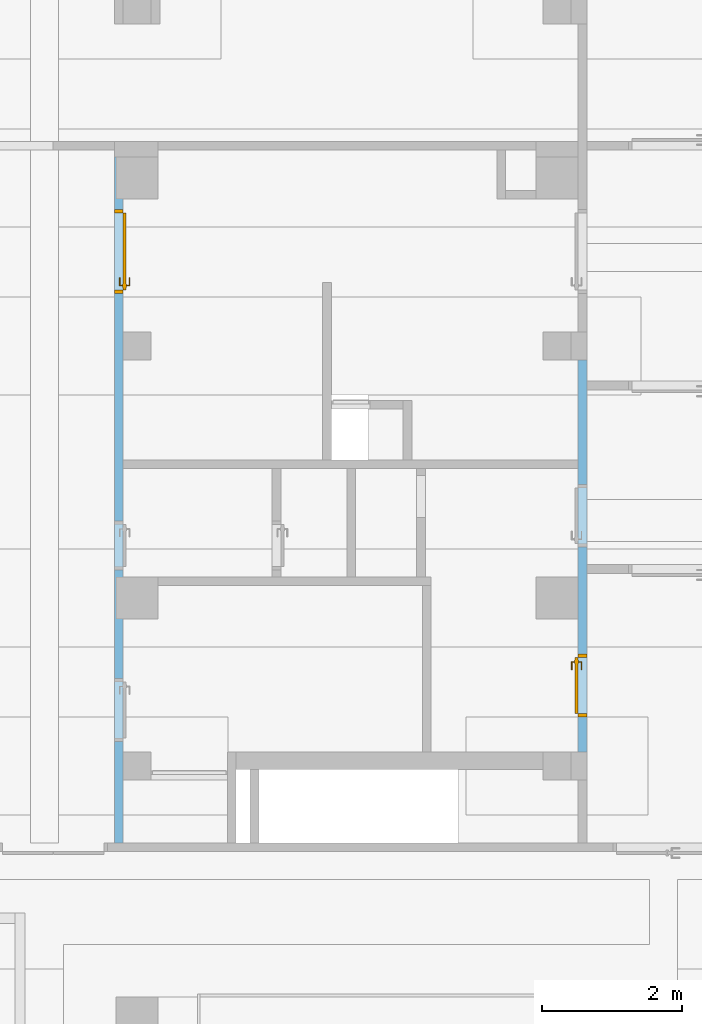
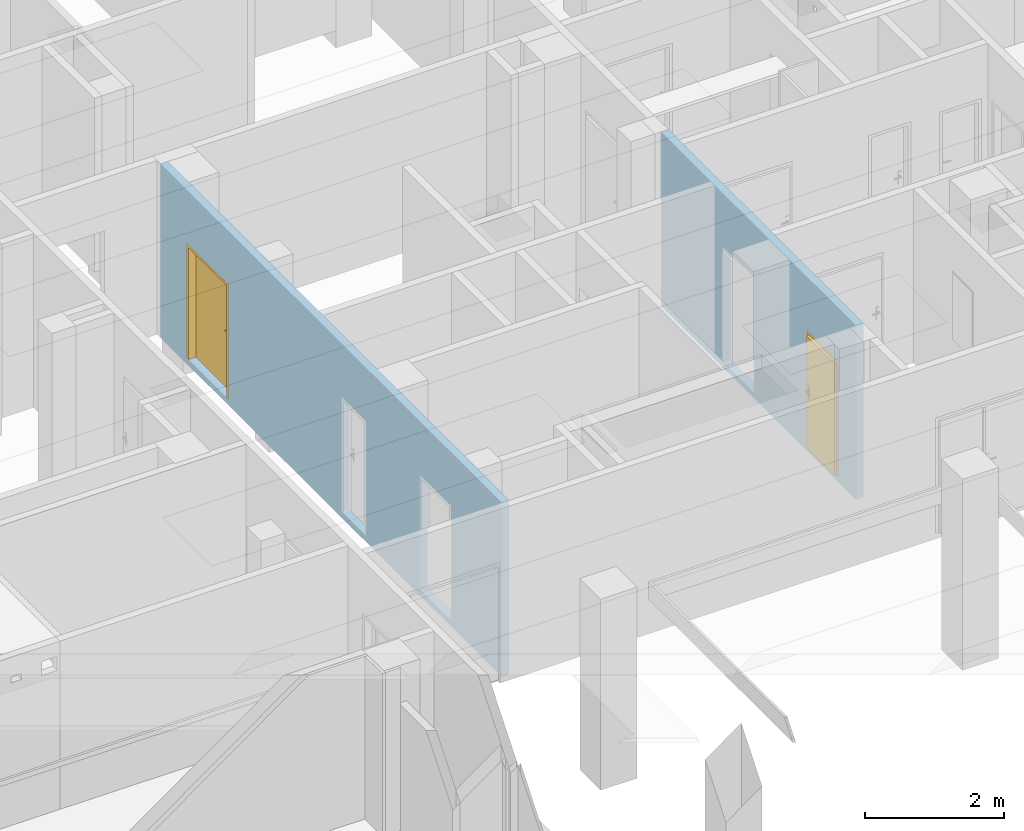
# One storey, part 69 of 84: 2 doors, 5 openings, plus 2 elements that do not belong to this part.
"""IFC4 building model written with IfcOpenShell, lengths in metres."""

from ifc_helpers import new_model, entity, si_unit, converted_unit, derived_unit, frame, frame_2d, origin, origin_with_axes, place, context, subcontext, project, spatial, polyline, rectangle, outline, extrude, closed_shell, open_shell, surface_model, source, transform, mapped, material, layer, layer_set, layer_usage, type_object, element, fill, save


model = new_model("IFC4")

# Units and contexts
model_context = context("Model", 3, precision=1e-05, world=origin())
body_context = subcontext(model_context, "Body", "Model", "MODEL_VIEW")
ifc_project = project(units=[si_unit("LENGTHUNIT", "METRE"), si_unit("AREAUNIT", "SQUARE_METRE"), si_unit("VOLUMEUNIT", "CUBIC_METRE"), si_unit("MASSUNIT", "GRAM", prefix="KILO"), converted_unit("PLANEANGLEUNIT", "DEGREE", entity("IfcPlaneAngleMeasure", 0.0174532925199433), si_unit("PLANEANGLEUNIT", "RADIAN"), dimensions=[0, 0, 0, 0, 0, 0, 0]), derived_unit("THERMALTRANSMITTANCEUNIT", [(si_unit("POWERUNIT", "WATT"), 1), (si_unit("THERMODYNAMICTEMPERATUREUNIT", "KELVIN"), -1), (si_unit("LENGTHUNIT", "METRE"), -2)]), derived_unit("VOLUMETRICFLOWRATEUNIT", [(si_unit("LENGTHUNIT", "METRE"), 3), (converted_unit("TIMEUNIT", "hour", entity("IfcTimeMeasure", 3600.0), si_unit("TIMEUNIT", "SECOND"), dimensions=[0, 0, 1, 0, 0, 0, 0]), -1), (si_unit("LENGTHUNIT", "METRE"), -1)])], contexts=[model_context])

# Site, building, storey
site_placement = place(None, origin())
site = spatial("IfcSite", under=ifc_project, at=site_placement, Name="3. ASŘ", CompositionType="ELEMENT")
building_placement = place(site_placement, origin())
building = spatial("IfcBuilding", under=site, at=building_placement, Name="Pavilon C", CompositionType="ELEMENT")
storey_placement = place(building_placement, frame((0.0, 0.0, -3.3)))
storey = spatial("IfcBuildingStorey", under=building, at=storey_placement, Name="Půdorys 1.PP", CompositionType="ELEMENT", Elevation=-3.3)

# Wall, openings, door
ifc_material_1 = material(Name="ZDIVO Z CDm")
ifc_layer_1 = layer(ifc_material_1, 0.125)
ifc_layer_set_1 = layer_set([ifc_layer_1])
ifc_layer_usage_1 = layer_usage(ifc_layer_set_1, "AXIS2", "POSITIVE", 0.0)
wall_1_placement = place(storey_placement, frame((34.15, 9.69999999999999, -0.1), z_axis=(0.0, 0.0, 1.0), x_axis=(0.0, 1.0, 0.0)))
wall_1 = element("IfcWall", 1, at=wall_1_placement, inside=storey, material=ifc_layer_usage_1, Name="ZDIVO Z CDm", context=body_context, shape_type="SweptSolid", body=[
    extrude(rectangle(XDim=9.8, YDim=0.125, at=frame_2d((4.9, 0.0625), x_axis=(1.0, 0.0))), origin_with_axes(), (0.0, 0.0, 1.0), 3.05),
])
opening_1_placement = place(wall_1_placement, frame((3.9, 0.0, 0.1), z_axis=(0.0, 1.0, 0.0), x_axis=(0.0, 0.0, 1.0)))
element("IfcOpeningElement", 2, at=opening_1_placement, cuts=wall_1, Name="Dveřní otvor", ObjectType="Opening", context=body_context, shape_type="SweptSolid", body=[
    extrude(outline(polyline([(0.0, 0.7), (2.02, 0.7), (2.02, 0.0), (0.0, 0.0), (0.0, 0.7)])), origin_with_axes(), (0.0, 0.0, 1.0), 0.125),
])
opening_2_placement = place(wall_1_placement, frame((9.05000000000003, 0.125, 0.1), z_axis=(0.0, -1.0, 0.0), x_axis=(0.0, 0.0, 1.0)))
opening_2 = element("IfcOpeningElement", 3, at=opening_2_placement, cuts=wall_1, Name="Dveřní otvor", ObjectType="Opening", context=body_context, shape_type="SweptSolid", body=[
    extrude(outline(polyline([(0.0, 1.2), (2.02, 1.2), (2.02, 0.0), (0.0, 0.0), (0.0, 1.2)])), origin_with_axes(), (0.0, 0.0, 1.0), 0.125),
])
opening_3_placement = place(wall_1_placement, frame((2.35, 0.125, 0.1), z_axis=(0.0, -1.0, 0.0), x_axis=(0.0, 0.0, 1.0)))
element("IfcOpeningElement", 4, at=opening_3_placement, cuts=wall_1, Name="Dveřní otvor", ObjectType="Opening", context=body_context, shape_type="SweptSolid", body=[
    extrude(outline(polyline([(0.0, 0.9), (2.02, 0.9), (2.02, 0.0), (0.0, 0.0), (0.0, 0.9)])), origin_with_axes(), (0.0, 0.0, 1.0), 0.125),
])
door_type_1 = type_object("IfcDoorType", Name="D101", OperationType="NOTDEFINED", ParameterTakesPrecedence=False, PredefinedType="DOOR")
shared_shape_1 = source(origin_with_axes(), body_context, "Body", "SurfaceModel", [
    surface_model("IfcShellBasedSurfaceModel", [(0.0, 0.125, 2.02), (0.0, 0.125, -7.65404249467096e-18), (0.05, 0.125, -7.65404249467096e-18), (0.05, 0.125, 2.02), (0.0, 0.0, 7.65404249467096e-18), (0.0, 2.41584530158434e-16, 2.02), (0.05, 2.41584530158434e-16, 2.02), (0.05, 0.0, 7.65404249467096e-18)], [closed_shell([[[0, 1, 2, 3]], [[4, 5, 6, 7]], [[1, 0, 5, 4]], [[2, 1, 4, 7]], [[3, 2, 7, 6]], [[0, 3, 6, 5]]], orient=[[False], [False], [False], [False], [False], [False]])]),
    surface_model("IfcShellBasedSurfaceModel", [(1.15, 0.125, 2.02), (1.15, 0.125, -7.65404249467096e-18), (1.2, 0.125, -7.65404249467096e-18), (1.2, 0.125, 2.02), (1.15, 0.0, 7.65404249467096e-18), (1.15, 2.41584530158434e-16, 2.02), (1.2, 2.41584530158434e-16, 2.02), (1.2, 0.0, 7.65404249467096e-18)], [closed_shell([[[0, 1, 2, 3]], [[4, 5, 6, 7]], [[1, 0, 5, 4]], [[2, 1, 4, 7]], [[3, 2, 7, 6]], [[0, 3, 6, 5]]], orient=[[False], [False], [False], [False], [False], [False]])]),
    surface_model("IfcShellBasedSurfaceModel", [(0.05, 0.125, 2.02), (0.05, 0.125, 1.97), (1.15, 0.125, 1.97), (1.15, 0.125, 2.02), (0.05, 2.41584530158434e-16, 1.97), (0.05, 2.41584530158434e-16, 2.02), (1.15, 2.41584530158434e-16, 2.02), (1.15, 2.41584530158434e-16, 1.97)], [closed_shell([[[0, 1, 2, 3]], [[4, 5, 6, 7]], [[1, 0, 5, 4]], [[2, 1, 4, 7]], [[3, 2, 7, 6]], [[0, 3, 6, 5]]], orient=[[False], [False], [False], [False], [False], [False]])]),
    surface_model("IfcShellBasedSurfaceModel", [(0.05, 0.165, 1.97), (0.05, 0.165, -1.25526296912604e-17), (1.15, 0.165, -1.25526296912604e-17), (1.15, 0.165, 1.97), (0.05, 0.125, -7.65404249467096e-18), (0.05, 0.125, 1.97), (1.15, 0.125, 1.97), (1.15, 0.125, -7.65404249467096e-18)], [closed_shell([[[0, 1, 2, 3]], [[4, 5, 6, 7]], [[1, 0, 5, 4]], [[2, 1, 4, 7]], [[3, 2, 7, 6]], [[0, 3, 6, 5]]], orient=[[False], [False], [False], [False], [False], [False]])]),
    surface_model("IfcShellBasedSurfaceModel", [(1.06, 0.125, 1.125), (1.06, 0.125, 0.91), (1.11, 0.125, 0.91), (1.11, 0.125, 1.125), (1.06, 0.115, 0.91), (1.06, 0.115, 1.125), (1.11, 0.115, 1.125), (1.11, 0.115, 0.91)], [closed_shell([[[0, 1, 2, 3]], [[4, 5, 6, 7]], [[1, 0, 5, 4]], [[2, 1, 4, 7]], [[3, 2, 7, 6]], [[0, 3, 6, 5]]], orient=[[False], [False], [False], [False], [False], [False]])]),
    surface_model("IfcShellBasedSurfaceModel", [(1.085, 0.115, 1.06), (1.08, 0.115, 1.05866025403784), (1.07633974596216, 0.115, 1.055), (1.075, 0.115, 1.05), (1.07633974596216, 0.115, 1.045), (1.08, 0.115, 1.04133974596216), (1.085, 0.115, 1.04), (1.09, 0.115, 1.04133974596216), (1.09366025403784, 0.115, 1.045), (1.095, 0.115, 1.05), (1.09366025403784, 0.115, 1.055), (1.09, 0.115, 1.05866025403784), (1.09, 0.0700000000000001, 1.05866025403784), (1.085, 0.0750000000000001, 1.06), (1.09366025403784, 0.0663397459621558, 1.055), (1.095, 0.0650000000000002, 1.05), (1.09366025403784, 0.0663397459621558, 1.045), (1.09, 0.0700000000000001, 1.04133974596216), (1.085, 0.0750000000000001, 1.04), (1.08, 0.0800000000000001, 1.04133974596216), (1.07633974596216, 0.0836602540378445, 1.045), (1.075, 0.0850000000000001, 1.05), (1.07633974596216, 0.0836602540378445, 1.055), (1.08, 0.0800000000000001, 1.05866025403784), (0.97, 0.0700000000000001, 1.05866025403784), (0.97, 0.0750000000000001, 1.06), (0.97, 0.0663397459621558, 1.055), (0.97, 0.0650000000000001, 1.05), (0.97, 0.0663397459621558, 1.045), (0.97, 0.0700000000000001, 1.04133974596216), (0.97, 0.0750000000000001, 1.04), (0.97, 0.0800000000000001, 1.04133974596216), (0.97, 0.0836602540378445, 1.045), (0.97, 0.0850000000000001, 1.05), (0.97, 0.0836602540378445, 1.055), (0.97, 0.0800000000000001, 1.05866025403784)], [open_shell([[[0, 1, 2, 3, 4, 5, 6, 7, 8, 9, 10, 11]], [[0, 11, 12, 13]], [[11, 10, 14, 12]], [[10, 9, 15, 14]], [[9, 8, 16, 15]], [[8, 7, 17, 16]], [[7, 6, 18, 17]], [[6, 5, 19, 18]], [[5, 4, 20, 19]], [[4, 3, 21, 20]], [[3, 2, 22, 21]], [[2, 1, 23, 22]], [[1, 0, 13, 23]], [[13, 12, 24, 25]], [[12, 14, 26, 24]], [[14, 15, 27, 26]], [[15, 16, 28, 27]], [[16, 17, 29, 28]], [[17, 18, 30, 29]], [[18, 19, 31, 30]], [[19, 20, 32, 31]], [[20, 21, 33, 32]], [[21, 22, 34, 33]], [[22, 23, 35, 34]], [[23, 13, 25, 35]]], orient=[[False], [False], [False], [False], [False], [False], [False], [False], [False], [False], [False], [False], [False], [False], [False], [False], [False], [False], [False], [False], [False], [False], [False], [False], [False]])]),
    surface_model("IfcShellBasedSurfaceModel", [(1.06, 0.165, 1.125), (1.11, 0.165, 1.125), (1.11, 0.165, 0.91), (1.06, 0.165, 0.91), (1.06, 0.175, 0.91), (1.11, 0.175, 0.91), (1.11, 0.175, 1.125), (1.06, 0.175, 1.125)], [closed_shell([[[0, 1, 2, 3]], [[4, 5, 6, 7]], [[3, 4, 7, 0]], [[2, 5, 4, 3]], [[1, 6, 5, 2]], [[0, 7, 6, 1]]], orient=[[False], [False], [False], [False], [False], [False]])]),
    surface_model("IfcShellBasedSurfaceModel", [(1.085, 0.175, 1.06), (1.09, 0.175, 1.05866025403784), (1.09366025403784, 0.175, 1.055), (1.095, 0.175, 1.05), (1.09366025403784, 0.175, 1.045), (1.09, 0.175, 1.04133974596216), (1.085, 0.175, 1.04), (1.08, 0.175, 1.04133974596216), (1.07633974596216, 0.175, 1.045), (1.075, 0.175, 1.05), (1.07633974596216, 0.175, 1.055), (1.08, 0.175, 1.05866025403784), (1.085, 0.215, 1.06), (1.09, 0.22, 1.05866025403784), (1.09366025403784, 0.223660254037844, 1.055), (1.095, 0.225, 1.05), (1.09366025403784, 0.223660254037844, 1.045), (1.09, 0.22, 1.04133974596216), (1.085, 0.215, 1.04), (1.08, 0.21, 1.04133974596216), (1.07633974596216, 0.206339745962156, 1.045), (1.075, 0.205, 1.05), (1.07633974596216, 0.206339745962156, 1.055), (1.08, 0.21, 1.05866025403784), (0.97, 0.215, 1.06), (0.97, 0.22, 1.05866025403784), (0.97, 0.223660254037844, 1.055), (0.97, 0.225, 1.05), (0.97, 0.223660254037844, 1.045), (0.97, 0.22, 1.04133974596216), (0.97, 0.215, 1.04), (0.97, 0.21, 1.04133974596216), (0.97, 0.206339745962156, 1.045), (0.97, 0.205, 1.05), (0.97, 0.206339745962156, 1.055), (0.97, 0.21, 1.05866025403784)], [open_shell([[[0, 1, 2, 3, 4, 5, 6, 7, 8, 9, 10, 11]], [[0, 12, 13, 1]], [[1, 13, 14, 2]], [[2, 14, 15, 3]], [[3, 15, 16, 4]], [[4, 16, 17, 5]], [[5, 17, 18, 6]], [[6, 18, 19, 7]], [[7, 19, 20, 8]], [[8, 20, 21, 9]], [[9, 21, 22, 10]], [[10, 22, 23, 11]], [[11, 23, 12, 0]], [[12, 24, 25, 13]], [[13, 25, 26, 14]], [[14, 26, 27, 15]], [[15, 27, 28, 16]], [[16, 28, 29, 17]], [[17, 29, 30, 18]], [[18, 30, 31, 19]], [[19, 31, 32, 20]], [[20, 32, 33, 21]], [[21, 33, 34, 22]], [[22, 34, 35, 23]], [[23, 35, 24, 12]]], orient=[[False], [False], [False], [False], [False], [False], [False], [False], [False], [False], [False], [False], [False], [False], [False], [False], [False], [False], [False], [False], [False], [False], [False], [False], [False]])]),
])
door_1_placement = place(opening_2_placement, frame((0.0, 7.27595761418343e-15, -1.45519152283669e-14), z_axis=(1.0, 0.0, 0.0), x_axis=(0.0, 1.0, 1.22464679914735e-16)))
door_1 = element("IfcDoor", 5, at=door_1_placement, inside=storey, type_object=door_type_1, Name="D101", OverallHeight=2.02, OverallWidth=1.2, context=body_context, shape_type="MappedRepresentation", body=[
    mapped(shared_shape_1, transform((0.0, 0.0, 0.0), x_axis=(1.0, 0.0, 0.0), y_axis=(0.0, 1.0, 0.0), z_axis=(0.0, 0.0, 1.0), scale=1.0)),
])
fill(opening_2, door_1)

ifc_material_2 = material(Name="ZDIVO Z CDm")
ifc_layer_2 = layer(ifc_material_2, 0.125)
ifc_layer_set_2 = layer_set([ifc_layer_2])
ifc_layer_usage_2 = layer_usage(ifc_layer_set_2, "AXIS2", "POSITIVE", 0.0)
wall_2_placement = place(storey_placement, frame((40.65, 16.6, -0.1), z_axis=(0.0, 0.0, 1.0), x_axis=(0.0, -1.0, 0.0)))
wall_2 = element("IfcWall", 6, at=wall_2_placement, inside=storey, material=ifc_layer_usage_2, Name="ZDIVO Z CDm", context=body_context, shape_type="SweptSolid", body=[
    extrude(rectangle(XDim=5.6, YDim=0.125, at=frame_2d((2.8, 0.0625), x_axis=(1.0, 0.0))), origin_with_axes(), (0.0, 0.0, 1.0), 3.05),
])
opening_4_placement = place(wall_2_placement, frame((2.675, 0.125, 0.1), z_axis=(0.0, -1.0, 0.0), x_axis=(0.0, 0.0, 1.0)))
element("IfcOpeningElement", 7, at=opening_4_placement, cuts=wall_2, Name="Dveřní otvor", ObjectType="Opening", context=body_context, shape_type="SweptSolid", body=[
    extrude(outline(polyline([(0.0, 0.9), (2.02, 0.9), (2.02, 0.0), (0.0, 0.0), (0.0, 0.9)])), origin_with_axes(), (0.0, 0.0, 1.0), 0.125),
])
opening_5_placement = place(wall_2_placement, frame((5.1, 0.125, 0.1), z_axis=(0.0, -1.0, 0.0), x_axis=(0.0, 0.0, 1.0)))
opening_5 = element("IfcOpeningElement", 8, at=opening_5_placement, cuts=wall_2, Name="Dveřní otvor", ObjectType="Opening", context=body_context, shape_type="SweptSolid", body=[
    extrude(outline(polyline([(0.0, 0.9), (2.02, 0.9), (2.02, 0.0), (0.0, 0.0), (0.0, 0.9)])), origin_with_axes(), (0.0, 0.0, 1.0), 0.125),
])
door_type_2 = type_object("IfcDoorType", Name="D101", OperationType="NOTDEFINED", ParameterTakesPrecedence=False, PredefinedType="DOOR")
shared_shape_2 = source(origin_with_axes(), body_context, "Body", "SurfaceModel", [
    surface_model("IfcShellBasedSurfaceModel", [(0.0, 0.125, 2.02), (0.0, 0.125, -7.65404249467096e-18), (0.05, 0.125, -7.65404249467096e-18), (0.05, 0.125, 2.02), (0.0, 0.0, 7.65404249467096e-18), (0.0, 2.41584530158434e-16, 2.02), (0.05, 2.41584530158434e-16, 2.02), (0.05, 0.0, 7.65404249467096e-18)], [closed_shell([[[0, 1, 2, 3]], [[4, 5, 6, 7]], [[1, 0, 5, 4]], [[2, 1, 4, 7]], [[3, 2, 7, 6]], [[0, 3, 6, 5]]], orient=[[False], [False], [False], [False], [False], [False]])]),
    surface_model("IfcShellBasedSurfaceModel", [(0.85, 0.125, 2.02), (0.85, 0.125, -7.65404249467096e-18), (0.9, 0.125, -7.65404249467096e-18), (0.9, 0.125, 2.02), (0.85, 0.0, 7.65404249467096e-18), (0.85, 2.41584530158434e-16, 2.02), (0.9, 2.41584530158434e-16, 2.02), (0.9, 0.0, 7.65404249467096e-18)], [closed_shell([[[0, 1, 2, 3]], [[4, 5, 6, 7]], [[1, 0, 5, 4]], [[2, 1, 4, 7]], [[3, 2, 7, 6]], [[0, 3, 6, 5]]], orient=[[False], [False], [False], [False], [False], [False]])]),
    surface_model("IfcShellBasedSurfaceModel", [(0.05, 0.125, 2.02), (0.05, 0.125, 1.97), (0.85, 0.125, 1.97), (0.85, 0.125, 2.02), (0.05, 2.41584530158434e-16, 1.97), (0.05, 2.41584530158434e-16, 2.02), (0.85, 2.41584530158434e-16, 2.02), (0.85, 2.41584530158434e-16, 1.97)], [closed_shell([[[0, 1, 2, 3]], [[4, 5, 6, 7]], [[1, 0, 5, 4]], [[2, 1, 4, 7]], [[3, 2, 7, 6]], [[0, 3, 6, 5]]], orient=[[False], [False], [False], [False], [False], [False]])]),
    surface_model("IfcShellBasedSurfaceModel", [(0.05, 0.165, 1.97), (0.05, 0.165, -1.25526296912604e-17), (0.85, 0.165, -1.25526296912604e-17), (0.85, 0.165, 1.97), (0.05, 0.125, -7.65404249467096e-18), (0.05, 0.125, 1.97), (0.85, 0.125, 1.97), (0.85, 0.125, -7.65404249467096e-18)], [closed_shell([[[0, 1, 2, 3]], [[4, 5, 6, 7]], [[1, 0, 5, 4]], [[2, 1, 4, 7]], [[3, 2, 7, 6]], [[0, 3, 6, 5]]], orient=[[False], [False], [False], [False], [False], [False]])]),
    surface_model("IfcShellBasedSurfaceModel", [(0.76, 0.125, 1.125), (0.76, 0.125, 0.91), (0.81, 0.125, 0.91), (0.81, 0.125, 1.125), (0.76, 0.115, 0.91), (0.76, 0.115, 1.125), (0.81, 0.115, 1.125), (0.81, 0.115, 0.91)], [closed_shell([[[0, 1, 2, 3]], [[4, 5, 6, 7]], [[1, 0, 5, 4]], [[2, 1, 4, 7]], [[3, 2, 7, 6]], [[0, 3, 6, 5]]], orient=[[False], [False], [False], [False], [False], [False]])]),
    surface_model("IfcShellBasedSurfaceModel", [(0.785, 0.115, 1.06), (0.78, 0.115, 1.05866025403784), (0.776339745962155, 0.115, 1.055), (0.775, 0.115, 1.05), (0.776339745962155, 0.115, 1.045), (0.78, 0.115, 1.04133974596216), (0.785, 0.115, 1.04), (0.79, 0.115, 1.04133974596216), (0.793660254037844, 0.115, 1.045), (0.795, 0.115, 1.05), (0.793660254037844, 0.115, 1.055), (0.79, 0.115, 1.05866025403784), (0.79, 0.0700000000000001, 1.05866025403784), (0.785, 0.0750000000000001, 1.06), (0.793660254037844, 0.0663397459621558, 1.055), (0.795, 0.0650000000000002, 1.05), (0.793660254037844, 0.0663397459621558, 1.045), (0.79, 0.0700000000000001, 1.04133974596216), (0.785, 0.0750000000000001, 1.04), (0.78, 0.0800000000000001, 1.04133974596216), (0.776339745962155, 0.0836602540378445, 1.045), (0.775, 0.0850000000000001, 1.05), (0.776339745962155, 0.0836602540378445, 1.055), (0.78, 0.0800000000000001, 1.05866025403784), (0.67, 0.0700000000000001, 1.05866025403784), (0.67, 0.0750000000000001, 1.06), (0.67, 0.0663397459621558, 1.055), (0.67, 0.0650000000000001, 1.05), (0.67, 0.0663397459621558, 1.045), (0.67, 0.0700000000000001, 1.04133974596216), (0.67, 0.0750000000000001, 1.04), (0.67, 0.0800000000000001, 1.04133974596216), (0.67, 0.0836602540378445, 1.045), (0.67, 0.0850000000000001, 1.05), (0.67, 0.0836602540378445, 1.055), (0.67, 0.0800000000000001, 1.05866025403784)], [open_shell([[[0, 1, 2, 3, 4, 5, 6, 7, 8, 9, 10, 11]], [[0, 11, 12, 13]], [[11, 10, 14, 12]], [[10, 9, 15, 14]], [[9, 8, 16, 15]], [[8, 7, 17, 16]], [[7, 6, 18, 17]], [[6, 5, 19, 18]], [[5, 4, 20, 19]], [[4, 3, 21, 20]], [[3, 2, 22, 21]], [[2, 1, 23, 22]], [[1, 0, 13, 23]], [[13, 12, 24, 25]], [[12, 14, 26, 24]], [[14, 15, 27, 26]], [[15, 16, 28, 27]], [[16, 17, 29, 28]], [[17, 18, 30, 29]], [[18, 19, 31, 30]], [[19, 20, 32, 31]], [[20, 21, 33, 32]], [[21, 22, 34, 33]], [[22, 23, 35, 34]], [[23, 13, 25, 35]]], orient=[[False], [False], [False], [False], [False], [False], [False], [False], [False], [False], [False], [False], [False], [False], [False], [False], [False], [False], [False], [False], [False], [False], [False], [False], [False]])]),
    surface_model("IfcShellBasedSurfaceModel", [(0.76, 0.165, 1.125), (0.81, 0.165, 1.125), (0.81, 0.165, 0.91), (0.76, 0.165, 0.91), (0.76, 0.175, 0.91), (0.81, 0.175, 0.91), (0.81, 0.175, 1.125), (0.76, 0.175, 1.125)], [closed_shell([[[0, 1, 2, 3]], [[4, 5, 6, 7]], [[3, 4, 7, 0]], [[2, 5, 4, 3]], [[1, 6, 5, 2]], [[0, 7, 6, 1]]], orient=[[False], [False], [False], [False], [False], [False]])]),
    surface_model("IfcShellBasedSurfaceModel", [(0.785, 0.175, 1.06), (0.79, 0.175, 1.05866025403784), (0.793660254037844, 0.175, 1.055), (0.795, 0.175, 1.05), (0.793660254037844, 0.175, 1.045), (0.79, 0.175, 1.04133974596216), (0.785, 0.175, 1.04), (0.78, 0.175, 1.04133974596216), (0.776339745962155, 0.175, 1.045), (0.775, 0.175, 1.05), (0.776339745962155, 0.175, 1.055), (0.78, 0.175, 1.05866025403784), (0.785, 0.215, 1.06), (0.79, 0.22, 1.05866025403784), (0.793660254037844, 0.223660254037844, 1.055), (0.795, 0.225, 1.05), (0.793660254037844, 0.223660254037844, 1.045), (0.79, 0.22, 1.04133974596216), (0.785, 0.215, 1.04), (0.78, 0.21, 1.04133974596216), (0.776339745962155, 0.206339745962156, 1.045), (0.775, 0.205, 1.05), (0.776339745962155, 0.206339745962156, 1.055), (0.78, 0.21, 1.05866025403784), (0.67, 0.215, 1.06), (0.67, 0.22, 1.05866025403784), (0.67, 0.223660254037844, 1.055), (0.67, 0.225, 1.05), (0.67, 0.223660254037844, 1.045), (0.67, 0.22, 1.04133974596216), (0.67, 0.215, 1.04), (0.67, 0.21, 1.04133974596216), (0.67, 0.206339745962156, 1.045), (0.67, 0.205, 1.05), (0.67, 0.206339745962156, 1.055), (0.67, 0.21, 1.05866025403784)], [open_shell([[[0, 1, 2, 3, 4, 5, 6, 7, 8, 9, 10, 11]], [[0, 12, 13, 1]], [[1, 13, 14, 2]], [[2, 14, 15, 3]], [[3, 15, 16, 4]], [[4, 16, 17, 5]], [[5, 17, 18, 6]], [[6, 18, 19, 7]], [[7, 19, 20, 8]], [[8, 20, 21, 9]], [[9, 21, 22, 10]], [[10, 22, 23, 11]], [[11, 23, 12, 0]], [[12, 24, 25, 13]], [[13, 25, 26, 14]], [[14, 26, 27, 15]], [[15, 27, 28, 16]], [[16, 28, 29, 17]], [[17, 29, 30, 18]], [[18, 30, 31, 19]], [[19, 31, 32, 20]], [[20, 32, 33, 21]], [[21, 33, 34, 22]], [[22, 34, 35, 23]], [[23, 35, 24, 12]]], orient=[[False], [False], [False], [False], [False], [False], [False], [False], [False], [False], [False], [False], [False], [False], [False], [False], [False], [False], [False], [False], [False], [False], [False], [False], [False]])]),
])
door_2_placement = place(opening_5_placement, frame((0.0, -3.63797880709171e-15, 1.45519152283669e-14), z_axis=(1.0, 0.0, 0.0), x_axis=(0.0, 1.0, -1.22464679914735e-16)))
door_2 = element("IfcDoor", 9, at=door_2_placement, inside=storey, type_object=door_type_2, Name="D101", OverallHeight=2.02, OverallWidth=0.9, context=body_context, shape_type="MappedRepresentation", body=[
    mapped(shared_shape_2, transform((0.0, 0.0, 0.0), x_axis=(1.0, 0.0, 0.0), y_axis=(0.0, 1.0, 0.0), z_axis=(0.0, 0.0, 1.0), scale=1.0)),
])
fill(opening_5, door_2)

save(model, "model.ifc")
